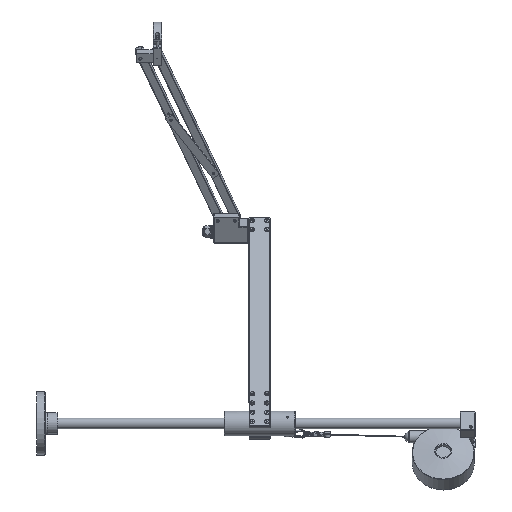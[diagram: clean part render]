
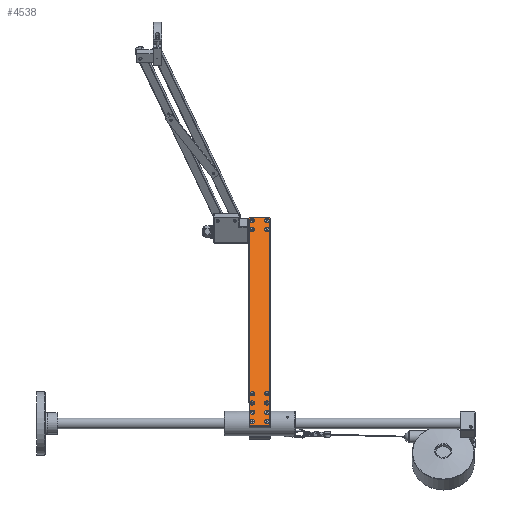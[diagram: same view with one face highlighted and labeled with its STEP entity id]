
A CAD part, top view. The second image highlights one B-rep face of the part: STEP entity #4538.
In plain terms, the highlighted planar face has unit normal (0, 0.5, 0.866) as drawn and (0, 0, -1) by its records, which use the part's own axes.
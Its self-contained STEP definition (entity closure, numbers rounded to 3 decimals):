
#4538 = ADVANCED_FACE( '', ( #8852, #8853, #8854, #8855, #8856, #8857, #8858, #8859, #8860, #8861, #8862, #8863, #8864 ), #8865, .F. );
#8852 = FACE_OUTER_BOUND( '', #13554, .T. );
#8853 = FACE_BOUND( '', #13555, .T. );
#8854 = FACE_BOUND( '', #13556, .T. );
#8855 = FACE_BOUND( '', #13557, .T. );
#8856 = FACE_BOUND( '', #13558, .T. );
#8857 = FACE_BOUND( '', #13559, .T. );
#8858 = FACE_BOUND( '', #13560, .T. );
#8859 = FACE_BOUND( '', #13561, .T. );
#8860 = FACE_BOUND( '', #13562, .T. );
#8861 = FACE_BOUND( '', #13563, .T. );
#8862 = FACE_BOUND( '', #13564, .T. );
#8863 = FACE_BOUND( '', #13565, .T. );
#8864 = FACE_BOUND( '', #13566, .T. );
#8865 = PLANE( '', #13567 );
#13554 = EDGE_LOOP( '', ( #22323, #22324, #22325, #22326 ) );
#13555 = EDGE_LOOP( '', ( #22327 ) );
#13556 = EDGE_LOOP( '', ( #22328 ) );
#13557 = EDGE_LOOP( '', ( #22329 ) );
#13558 = EDGE_LOOP( '', ( #22330 ) );
#13559 = EDGE_LOOP( '', ( #22331 ) );
#13560 = EDGE_LOOP( '', ( #22332 ) );
#13561 = EDGE_LOOP( '', ( #22333 ) );
#13562 = EDGE_LOOP( '', ( #22334 ) );
#13563 = EDGE_LOOP( '', ( #22335 ) );
#13564 = EDGE_LOOP( '', ( #22336 ) );
#13565 = EDGE_LOOP( '', ( #22337 ) );
#13566 = EDGE_LOOP( '', ( #22338 ) );
#13567 = AXIS2_PLACEMENT_3D( '', #22339, #22340, #22341 );
#22323 = ORIENTED_EDGE( '', *, *, #26718, .T. );
#22324 = ORIENTED_EDGE( '', *, *, #26939, .T. );
#22325 = ORIENTED_EDGE( '', *, *, #26100, .T. );
#22326 = ORIENTED_EDGE( '', *, *, #26713, .T. );
#22327 = ORIENTED_EDGE( '', *, *, #26985, .T. );
#22328 = ORIENTED_EDGE( '', *, *, #26986, .T. );
#22329 = ORIENTED_EDGE( '', *, *, #24506, .T. );
#22330 = ORIENTED_EDGE( '', *, *, #25749, .T. );
#22331 = ORIENTED_EDGE( '', *, *, #26014, .T. );
#22332 = ORIENTED_EDGE( '', *, *, #26972, .T. );
#22333 = ORIENTED_EDGE( '', *, *, #23792, .T. );
#22334 = ORIENTED_EDGE( '', *, *, #26987, .T. );
#22335 = ORIENTED_EDGE( '', *, *, #24305, .T. );
#22336 = ORIENTED_EDGE( '', *, *, #25920, .T. );
#22337 = ORIENTED_EDGE( '', *, *, #25818, .T. );
#22338 = ORIENTED_EDGE( '', *, *, #26988, .T. );
#22339 = CARTESIAN_POINT( '', ( -71.611, 8.951, -10. ) );
#22340 = DIRECTION( '', ( 0., 0., 1. ) );
#22341 = DIRECTION( '', ( 1., 0., 0. ) );
#23792 = EDGE_CURVE( '', #27560, #27560, #27561, .T. );
#24305 = EDGE_CURVE( '', #28444, #28444, #28445, .T. );
#24506 = EDGE_CURVE( '', #28781, #28781, #28782, .T. );
#25749 = EDGE_CURVE( '', #30687, #30687, #30688, .T. );
#25818 = EDGE_CURVE( '', #30783, #30783, #30784, .T. );
#25920 = EDGE_CURVE( '', #30921, #30921, #30922, .T. );
#26014 = EDGE_CURVE( '', #31053, #31053, #31054, .T. );
#26100 = EDGE_CURVE( '', #29448, #31037, #31168, .T. );
#26713 = EDGE_CURVE( '', #31037, #31488, #31940, .T. );
#26718 = EDGE_CURVE( '', #31488, #30485, #31946, .T. );
#26939 = EDGE_CURVE( '', #30485, #29448, #32201, .T. );
#26972 = EDGE_CURVE( '', #32237, #32237, #32238, .T. );
#26985 = EDGE_CURVE( '', #32251, #32251, #32252, .T. );
#26986 = EDGE_CURVE( '', #32253, #32253, #32254, .T. );
#26987 = EDGE_CURVE( '', #32255, #32255, #32256, .T. );
#26988 = EDGE_CURVE( '', #32257, #32257, #32258, .T. );
#27560 = VERTEX_POINT( '', #32751 );
#27561 = CIRCLE( '', #32752, 5.75 );
#28444 = VERTEX_POINT( '', #34531 );
#28445 = CIRCLE( '', #34532, 5.75 );
#28781 = VERTEX_POINT( '', #35180 );
#28782 = CIRCLE( '', #35181, 5.75 );
#29448 = VERTEX_POINT( '', #36807 );
#30485 = VERTEX_POINT( '', #38582 );
#30687 = VERTEX_POINT( '', #39193 );
#30688 = CIRCLE( '', #39194, 5.75 );
#30783 = VERTEX_POINT( '', #39353 );
#30784 = CIRCLE( '', #39354, 5.75 );
#30921 = VERTEX_POINT( '', #39596 );
#30922 = CIRCLE( '', #39597, 5.75 );
#31037 = VERTEX_POINT( '', #39751 );
#31053 = VERTEX_POINT( '', #39772 );
#31054 = CIRCLE( '', #39773, 5.75 );
#31168 = LINE( '', #39997, #39998 );
#31488 = VERTEX_POINT( '', #40479 );
#31940 = LINE( '', #41167, #41168 );
#31946 = LINE( '', #41176, #41177 );
#32201 = LINE( '', #41502, #41503 );
#32237 = VERTEX_POINT( '', #41544 );
#32238 = CIRCLE( '', #41545, 5.75 );
#32251 = VERTEX_POINT( '', #41559 );
#32252 = CIRCLE( '', #41560, 5.75 );
#32253 = VERTEX_POINT( '', #41561 );
#32254 = CIRCLE( '', #41562, 5.75 );
#32255 = VERTEX_POINT( '', #41563 );
#32256 = CIRCLE( '', #41564, 5.75 );
#32257 = VERTEX_POINT( '', #41565 );
#32258 = CIRCLE( '', #41566, 5.75 );
#32751 = CARTESIAN_POINT( '', ( 480.889, 45.201, -10. ) );
#32752 = AXIS2_PLACEMENT_3D( '', #42010, #42011, #42012 );
#34531 = CARTESIAN_POINT( '', ( -39.111, 11.201, -10. ) );
#34532 = AXIS2_PLACEMENT_3D( '', #42614, #42615, #42616 );
#35180 = CARTESIAN_POINT( '', ( 430.889, 45.201, -10. ) );
#35181 = AXIS2_PLACEMENT_3D( '', #42863, #42864, #42865 );
#36807 = CARTESIAN_POINT( '', ( -70.611, 57.951, -10. ) );
#38582 = CARTESIAN_POINT( '', ( -70.611, 9.951, -10. ) );
#39193 = CARTESIAN_POINT( '', ( 430.889, 11.201, -10. ) );
#39194 = AXIS2_PLACEMENT_3D( '', #44358, #44359, #44360 );
#39353 = CARTESIAN_POINT( '', ( -64.111, 45.201, -10. ) );
#39354 = AXIS2_PLACEMENT_3D( '', #44425, #44426, #44427 );
#39596 = CARTESIAN_POINT( '', ( -39.111, 45.201, -10. ) );
#39597 = AXIS2_PLACEMENT_3D( '', #44525, #44526, #44527 );
#39751 = CARTESIAN_POINT( '', ( 492.389, 57.951, -10. ) );
#39772 = CARTESIAN_POINT( '', ( 455.889, 45.201, -10. ) );
#39773 = AXIS2_PLACEMENT_3D( '', #44642, #44643, #44644 );
#39997 = CARTESIAN_POINT( '', ( 493.389, 57.951, -10. ) );
#39998 = VECTOR( '', #44726, 1000. );
#40479 = CARTESIAN_POINT( '', ( 492.389, 9.951, -10. ) );
#41167 = CARTESIAN_POINT( '', ( 492.389, 8.951, -10. ) );
#41168 = VECTOR( '', #45319, 1000. );
#41176 = CARTESIAN_POINT( '', ( -71.611, 9.951, -10. ) );
#41177 = VECTOR( '', #45322, 1000. );
#41502 = CARTESIAN_POINT( '', ( -70.611, 58.951, -10. ) );
#41503 = VECTOR( '', #45490, 1000. );
#41544 = CARTESIAN_POINT( '', ( 455.889, 11.201, -10. ) );
#41545 = AXIS2_PLACEMENT_3D( '', #45511, #45512, #45513 );
#41559 = CARTESIAN_POINT( '', ( 405.889, 45.201, -10. ) );
#41560 = AXIS2_PLACEMENT_3D( '', #45515, #45516, #45517 );
#41561 = CARTESIAN_POINT( '', ( 405.889, 11.201, -10. ) );
#41562 = AXIS2_PLACEMENT_3D( '', #45518, #45519, #45520 );
#41563 = CARTESIAN_POINT( '', ( 480.889, 11.201, -10. ) );
#41564 = AXIS2_PLACEMENT_3D( '', #45521, #45522, #45523 );
#41565 = CARTESIAN_POINT( '', ( -64.111, 11.201, -10. ) );
#41566 = AXIS2_PLACEMENT_3D( '', #45524, #45525, #45526 );
#42010 = CARTESIAN_POINT( '', ( 480.889, 50.951, -10. ) );
#42011 = DIRECTION( '', ( 0., 0., 1. ) );
#42012 = DIRECTION( '', ( 0., -1., 0. ) );
#42614 = CARTESIAN_POINT( '', ( -39.111, 16.951, -10. ) );
#42615 = DIRECTION( '', ( 0., 0., 1. ) );
#42616 = DIRECTION( '', ( 0., -1., 0. ) );
#42863 = CARTESIAN_POINT( '', ( 430.889, 50.951, -10. ) );
#42864 = DIRECTION( '', ( 0., 0., 1. ) );
#42865 = DIRECTION( '', ( 0., -1., 0. ) );
#44358 = CARTESIAN_POINT( '', ( 430.889, 16.951, -10. ) );
#44359 = DIRECTION( '', ( 0., 0., 1. ) );
#44360 = DIRECTION( '', ( 0., -1., 0. ) );
#44425 = CARTESIAN_POINT( '', ( -64.111, 50.951, -10. ) );
#44426 = DIRECTION( '', ( 0., 0., 1. ) );
#44427 = DIRECTION( '', ( 0., -1., 0. ) );
#44525 = CARTESIAN_POINT( '', ( -39.111, 50.951, -10. ) );
#44526 = DIRECTION( '', ( 0., 0., 1. ) );
#44527 = DIRECTION( '', ( 0., -1., 0. ) );
#44642 = CARTESIAN_POINT( '', ( 455.889, 50.951, -10. ) );
#44643 = DIRECTION( '', ( 0., 0., 1. ) );
#44644 = DIRECTION( '', ( 0., -1., 0. ) );
#44726 = DIRECTION( '', ( 1., 0., 0. ) );
#45319 = DIRECTION( '', ( 0., -1., 0. ) );
#45322 = DIRECTION( '', ( -1., 0., 0. ) );
#45490 = DIRECTION( '', ( 0., 1., 0. ) );
#45511 = CARTESIAN_POINT( '', ( 455.889, 16.951, -10. ) );
#45512 = DIRECTION( '', ( 0., 0., 1. ) );
#45513 = DIRECTION( '', ( 0., -1., 0. ) );
#45515 = CARTESIAN_POINT( '', ( 405.889, 50.951, -10. ) );
#45516 = DIRECTION( '', ( 0., 0., 1. ) );
#45517 = DIRECTION( '', ( 0., -1., 0. ) );
#45518 = CARTESIAN_POINT( '', ( 405.889, 16.951, -10. ) );
#45519 = DIRECTION( '', ( 0., 0., 1. ) );
#45520 = DIRECTION( '', ( 0., -1., 0. ) );
#45521 = CARTESIAN_POINT( '', ( 480.889, 16.951, -10. ) );
#45522 = DIRECTION( '', ( 0., 0., 1. ) );
#45523 = DIRECTION( '', ( 0., -1., 0. ) );
#45524 = CARTESIAN_POINT( '', ( -64.111, 16.951, -10. ) );
#45525 = DIRECTION( '', ( 0., 0., 1. ) );
#45526 = DIRECTION( '', ( 0., -1., 0. ) );
